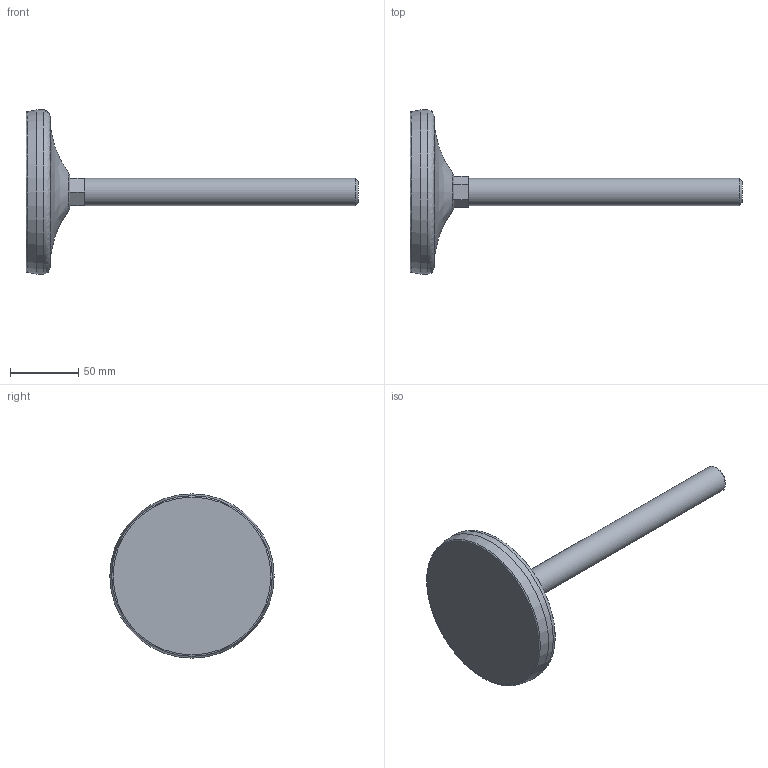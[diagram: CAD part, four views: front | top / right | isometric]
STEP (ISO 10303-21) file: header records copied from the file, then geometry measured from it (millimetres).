
FILE_DESCRIPTION(('STEP AP203'),'2;1');
FILE_NAME('26216.stp','2014-04-17T16:44:43',(''),(''),'2008.1.107','THINKDESIGN','');
FILE_SCHEMA(('CONFIG_CONTROL_DESIGN'));
Length unit declared in the file: millimetre
Bounding box: 242.5 x 120 x 120 mm (x, y, z)
Volume: 296001.4 mm3; surface area: 65443.7 mm2
Topology: 4 solids, 4 shells, 22 faces, 48 edges, 34 vertices
Faces by surface type: plane 14, bspline 6, cylinder 2
Full cylindrical faces by diameter (mm): 20 x1, 120 x1
Entity records: 950 total; most frequent: CARTESIAN_POINT 364, DIRECTION 106, ORIENTED_EDGE 96, EDGE_CURVE 48, AXIS2_PLACEMENT_3D 42, VERTEX_POINT 34, CIRCLE 26, EDGE_LOOP 22
